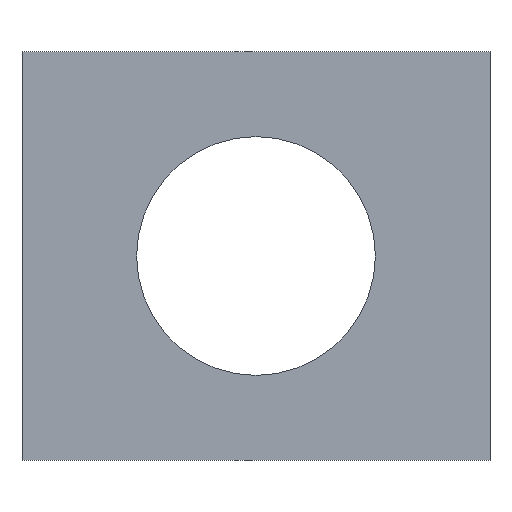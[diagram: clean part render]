
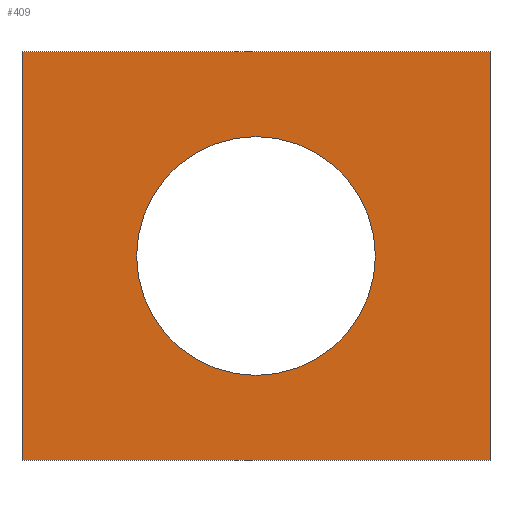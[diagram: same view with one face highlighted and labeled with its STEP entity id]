
A CAD part, left-side view. The second image highlights one B-rep face of the part: STEP entity #409.
In plain terms, the highlighted planar face has unit normal (-1, 0, 0).
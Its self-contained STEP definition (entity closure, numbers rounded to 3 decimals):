
#22 = VERTEX_POINT('',#23);
#23 = CARTESIAN_POINT('',(1410.,-196.,-171.));
#32 = PLANE('',#33);
#33 = AXIS2_PLACEMENT_3D('',#34,#35,#36);
#34 = CARTESIAN_POINT('',(1410.,-196.,-171.));
#35 = DIRECTION('',(0.,0.,1.));
#36 = DIRECTION('',(0.,1.,0.));
#44 = PLANE('',#45);
#45 = AXIS2_PLACEMENT_3D('',#46,#47,#48);
#46 = CARTESIAN_POINT('',(1410.,-196.,171.));
#47 = DIRECTION('',(-0.,1.,0.));
#48 = DIRECTION('',(0.,0.,-1.));
#85 = VERTEX_POINT('',#86);
#86 = CARTESIAN_POINT('',(1410.,196.,-171.));
#100 = PLANE('',#101);
#101 = AXIS2_PLACEMENT_3D('',#102,#103,#104);
#102 = CARTESIAN_POINT('',(1410.,196.,-171.));
#103 = DIRECTION('',(0.,-1.,0.));
#104 = DIRECTION('',(0.,0.,1.));
#112 = EDGE_CURVE('',#22,#85,#113,.T.);
#113 = SURFACE_CURVE('',#114,(#118,#125),.PCURVE_S1.);
#114 = LINE('',#115,#116);
#115 = CARTESIAN_POINT('',(1410.,-196.,-171.));
#116 = VECTOR('',#117,1.);
#117 = DIRECTION('',(0.,1.,0.));
#118 = PCURVE('',#32,#119);
#119 = DEFINITIONAL_REPRESENTATION('',(#120),#124);
#120 = LINE('',#121,#122);
#121 = CARTESIAN_POINT('',(0.,0.));
#122 = VECTOR('',#123,1.);
#123 = DIRECTION('',(1.,0.));
#124 = ( GEOMETRIC_REPRESENTATION_CONTEXT(2) 
PARAMETRIC_REPRESENTATION_CONTEXT() REPRESENTATION_CONTEXT('2D SPACE',''
  ) );
#125 = PCURVE('',#126,#131);
#126 = PLANE('',#127);
#127 = AXIS2_PLACEMENT_3D('',#128,#129,#130);
#128 = CARTESIAN_POINT('',(1410.,0.,0.));
#129 = DIRECTION('',(1.,0.,0.));
#130 = DIRECTION('',(-0.,0.,1.));
#131 = DEFINITIONAL_REPRESENTATION('',(#132),#136);
#132 = LINE('',#133,#134);
#133 = CARTESIAN_POINT('',(-171.,196.));
#134 = VECTOR('',#135,1.);
#135 = DIRECTION('',(0.,-1.));
#136 = ( GEOMETRIC_REPRESENTATION_CONTEXT(2) 
PARAMETRIC_REPRESENTATION_CONTEXT() REPRESENTATION_CONTEXT('2D SPACE',''
  ) );
#166 = VERTEX_POINT('',#167);
#167 = CARTESIAN_POINT('',(1410.,196.,171.));
#181 = PLANE('',#182);
#182 = AXIS2_PLACEMENT_3D('',#183,#184,#185);
#183 = CARTESIAN_POINT('',(1410.,196.,171.));
#184 = DIRECTION('',(0.,0.,-1.));
#185 = DIRECTION('',(0.,-1.,0.));
#193 = EDGE_CURVE('',#85,#166,#194,.T.);
#194 = SURFACE_CURVE('',#195,(#199,#206),.PCURVE_S1.);
#195 = LINE('',#196,#197);
#196 = CARTESIAN_POINT('',(1410.,196.,-171.));
#197 = VECTOR('',#198,1.);
#198 = DIRECTION('',(0.,0.,1.));
#199 = PCURVE('',#100,#200);
#200 = DEFINITIONAL_REPRESENTATION('',(#201),#205);
#201 = LINE('',#202,#203);
#202 = CARTESIAN_POINT('',(0.,0.));
#203 = VECTOR('',#204,1.);
#204 = DIRECTION('',(1.,0.));
#205 = ( GEOMETRIC_REPRESENTATION_CONTEXT(2) 
PARAMETRIC_REPRESENTATION_CONTEXT() REPRESENTATION_CONTEXT('2D SPACE',''
  ) );
#206 = PCURVE('',#126,#207);
#207 = DEFINITIONAL_REPRESENTATION('',(#208),#212);
#208 = LINE('',#209,#210);
#209 = CARTESIAN_POINT('',(-171.,-196.));
#210 = VECTOR('',#211,1.);
#211 = DIRECTION('',(1.,0.));
#212 = ( GEOMETRIC_REPRESENTATION_CONTEXT(2) 
PARAMETRIC_REPRESENTATION_CONTEXT() REPRESENTATION_CONTEXT('2D SPACE',''
  ) );
#242 = VERTEX_POINT('',#243);
#243 = CARTESIAN_POINT('',(1410.,-196.,171.));
#264 = EDGE_CURVE('',#166,#242,#265,.T.);
#265 = SURFACE_CURVE('',#266,(#270,#277),.PCURVE_S1.);
#266 = LINE('',#267,#268);
#267 = CARTESIAN_POINT('',(1410.,196.,171.));
#268 = VECTOR('',#269,1.);
#269 = DIRECTION('',(0.,-1.,0.));
#270 = PCURVE('',#181,#271);
#271 = DEFINITIONAL_REPRESENTATION('',(#272),#276);
#272 = LINE('',#273,#274);
#273 = CARTESIAN_POINT('',(0.,-0.));
#274 = VECTOR('',#275,1.);
#275 = DIRECTION('',(1.,0.));
#276 = ( GEOMETRIC_REPRESENTATION_CONTEXT(2) 
PARAMETRIC_REPRESENTATION_CONTEXT() REPRESENTATION_CONTEXT('2D SPACE',''
  ) );
#277 = PCURVE('',#126,#278);
#278 = DEFINITIONAL_REPRESENTATION('',(#279),#283);
#279 = LINE('',#280,#281);
#280 = CARTESIAN_POINT('',(171.,-196.));
#281 = VECTOR('',#282,1.);
#282 = DIRECTION('',(0.,1.));
#283 = ( GEOMETRIC_REPRESENTATION_CONTEXT(2) 
PARAMETRIC_REPRESENTATION_CONTEXT() REPRESENTATION_CONTEXT('2D SPACE',''
  ) );
#311 = EDGE_CURVE('',#242,#22,#312,.T.);
#312 = SURFACE_CURVE('',#313,(#317,#324),.PCURVE_S1.);
#313 = LINE('',#314,#315);
#314 = CARTESIAN_POINT('',(1410.,-196.,171.));
#315 = VECTOR('',#316,1.);
#316 = DIRECTION('',(0.,0.,-1.));
#317 = PCURVE('',#44,#318);
#318 = DEFINITIONAL_REPRESENTATION('',(#319),#323);
#319 = LINE('',#320,#321);
#320 = CARTESIAN_POINT('',(0.,0.));
#321 = VECTOR('',#322,1.);
#322 = DIRECTION('',(1.,0.));
#323 = ( GEOMETRIC_REPRESENTATION_CONTEXT(2) 
PARAMETRIC_REPRESENTATION_CONTEXT() REPRESENTATION_CONTEXT('2D SPACE',''
  ) );
#324 = PCURVE('',#126,#325);
#325 = DEFINITIONAL_REPRESENTATION('',(#326),#330);
#326 = LINE('',#327,#328);
#327 = CARTESIAN_POINT('',(171.,196.));
#328 = VECTOR('',#329,1.);
#329 = DIRECTION('',(-1.,0.));
#330 = ( GEOMETRIC_REPRESENTATION_CONTEXT(2) 
PARAMETRIC_REPRESENTATION_CONTEXT() REPRESENTATION_CONTEXT('2D SPACE',''
  ) );
#336 = VERTEX_POINT('',#337);
#337 = CARTESIAN_POINT('',(1410.,100.,0.));
#346 = CYLINDRICAL_SURFACE('',#347,100.);
#347 = AXIS2_PLACEMENT_3D('',#348,#349,#350);
#348 = CARTESIAN_POINT('',(1410.,0.,0.));
#349 = DIRECTION('',(-1.,-0.,-0.));
#350 = DIRECTION('',(0.,1.,0.));
#388 = EDGE_CURVE('',#336,#336,#389,.T.);
#389 = SURFACE_CURVE('',#390,(#395,#402),.PCURVE_S1.);
#390 = CIRCLE('',#391,100.);
#391 = AXIS2_PLACEMENT_3D('',#392,#393,#394);
#392 = CARTESIAN_POINT('',(1410.,0.,0.));
#393 = DIRECTION('',(1.,0.,0.));
#394 = DIRECTION('',(0.,1.,0.));
#395 = PCURVE('',#346,#396);
#396 = DEFINITIONAL_REPRESENTATION('',(#397),#401);
#397 = LINE('',#398,#399);
#398 = CARTESIAN_POINT('',(-0.,0.));
#399 = VECTOR('',#400,1.);
#400 = DIRECTION('',(-1.,0.));
#401 = ( GEOMETRIC_REPRESENTATION_CONTEXT(2) 
PARAMETRIC_REPRESENTATION_CONTEXT() REPRESENTATION_CONTEXT('2D SPACE',''
  ) );
#402 = PCURVE('',#126,#403);
#403 = DEFINITIONAL_REPRESENTATION('',(#404),#408);
#404 = CIRCLE('',#405,100.);
#405 = AXIS2_PLACEMENT_2D('',#406,#407);
#406 = CARTESIAN_POINT('',(0.,0.));
#407 = DIRECTION('',(0.,-1.));
#408 = ( GEOMETRIC_REPRESENTATION_CONTEXT(2) 
PARAMETRIC_REPRESENTATION_CONTEXT() REPRESENTATION_CONTEXT('2D SPACE',''
  ) );
#409 = ADVANCED_FACE('',(#410,#416),#126,.F.);
#410 = FACE_BOUND('',#411,.F.);
#411 = EDGE_LOOP('',(#412,#413,#414,#415));
#412 = ORIENTED_EDGE('',*,*,#112,.T.);
#413 = ORIENTED_EDGE('',*,*,#193,.T.);
#414 = ORIENTED_EDGE('',*,*,#264,.T.);
#415 = ORIENTED_EDGE('',*,*,#311,.T.);
#416 = FACE_BOUND('',#417,.F.);
#417 = EDGE_LOOP('',(#418));
#418 = ORIENTED_EDGE('',*,*,#388,.F.);
